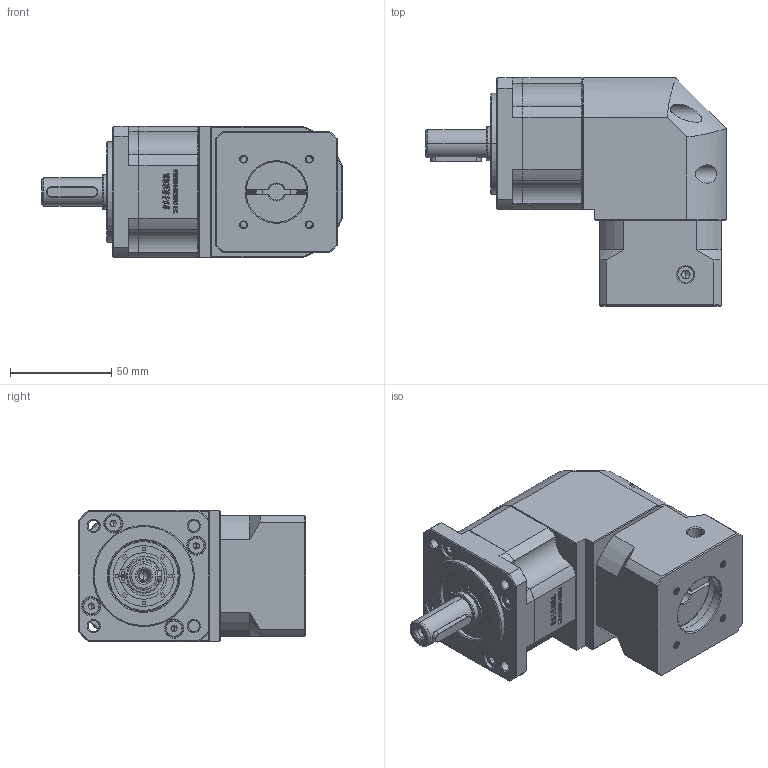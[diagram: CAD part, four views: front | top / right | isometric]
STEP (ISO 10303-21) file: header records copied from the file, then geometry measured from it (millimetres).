
FILE_DESCRIPTION (( 'STEP AP214' ), '1' );
FILE_NAME ('ZBR60-D14-L1-8-30-46-M4.STEP', '2022-04-19T08:15:15', ( '' ), ( 'Microsoft' ), 'SwSTEP 2.0', 'SolidWorks 2016', '' );
FILE_SCHEMA (( 'AUTOMOTIVE_DESIGN' ));
Length unit declared in the file: millimetre
Products named in the file (1): ZBR60-D14-L1-8-30-46-M4
Bounding box: 148.5 x 112.7 x 65 mm (x, y, z)
Volume: 533254.6 mm3; surface area: 79338.6 mm2
Topology: 5 solids, 5 shells, 2887 faces, 7847 edges, 5101 vertices
Faces by surface type: plane 1470, bspline 643, cylinder 416, cone 324, torus 34
Entity records: 176418 total; most frequent: CARTESIAN_POINT 76614, ORIENTED_EDGE 15650, DIRECTION 11684, EDGE_CURVE 7825, VERTEX_POINT 5101, LINE 5036, VECTOR 5036, AXIS2_PLACEMENT_3D 3324
